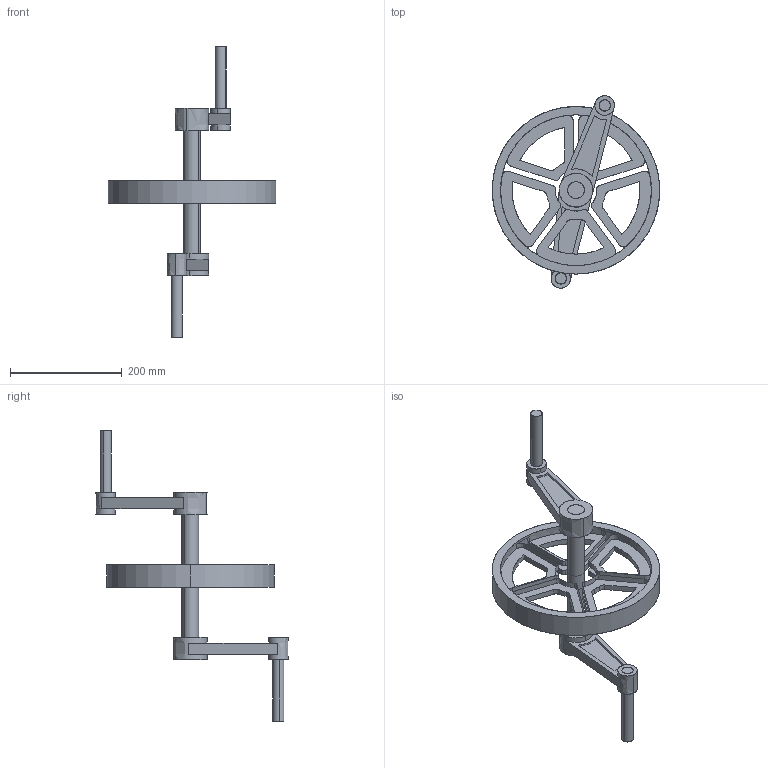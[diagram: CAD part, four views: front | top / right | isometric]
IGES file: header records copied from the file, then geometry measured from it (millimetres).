
Start section: SolidWorks IGES file using analytic representation for surfaces
Global section: file name: C:\Documents and Settings\Pc\Escritorio\Modelos 3D\Capítulo 1 (Estático)\PRACTICAS\P-6\P-6.IGS; native system: SolidWorks 2010; preprocessor: SolidWorks 2010; author: Pc; date: 100623.112130; units: millimetre
Bounding box: 300 x 344.17 x 520 mm (x, y, z)
Surface area: 330544.1 mm2 (no closed solid volume)
Topology: 0 solids, 0 shells, 202 faces, 3764 edges, 3764 vertices
Faces by surface type: revolution 124, bspline 78
